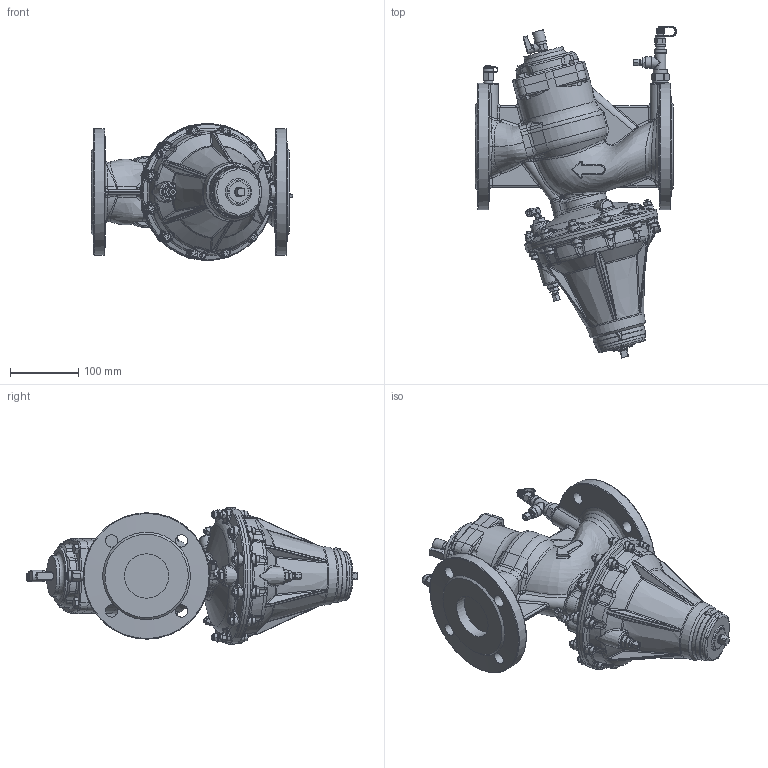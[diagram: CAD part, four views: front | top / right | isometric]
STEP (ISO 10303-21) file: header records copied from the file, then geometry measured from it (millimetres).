
FILE_DESCRIPTION (( 'STEP AP203' ), '1' );
FILE_NAME ('DL06516.STEP', '2014-10-01T14:27:37', ( 'luca.saino' ), ( 'Hewlett-Packard Company' ), 'SwSTEP 2.0', 'SolidWorks 2012', '' );
FILE_SCHEMA (( 'CONFIG_CONTROL_DESIGN' ));
Length unit declared in the file: millimetre
Products named in the file (1): DL06516
Bounding box: 295.29 x 486.05 x 199.58 mm (x, y, z)
Volume: 6786979 mm3; surface area: 414363.2 mm2
Topology: 1 solids, 1 shells, 2569 faces, 6204 edges, 3716 vertices
Faces by surface type: bspline 835, plane 737, cone 426, cylinder 351, torus 200, sphere 20
Full cylindrical faces by diameter (mm): 4 x3, 4.4 x1, 5 x3, 5.629 x2, 6 x12, 6.5 x1, 7.4 x2, 7.895 x1, 8 x4, 8.5 x4, 8.9 x2, 9.598 x2, 9.6 x1, 9.7 x1, 9.8 x3, 10 x12, 11 x16, 11.7 x1, 12 x1, 13.15 x1, 13.157 x1, 13.2 x1, 13.565 x1, 14 x3, 15 x1, 15.6 x1, 16 x2, 16.5 x1, 16.6 x1, 16.8 x2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
Entity records: 116429 total; most frequent: CARTESIAN_POINT 65484, ORIENTED_EDGE 11838, DIRECTION 8693, EDGE_CURVE 5919, AXIS2_PLACEMENT_3D 3750, VERTEX_POINT 3618, EDGE_LOOP 2851, FACE_OUTER_BOUND 2685
